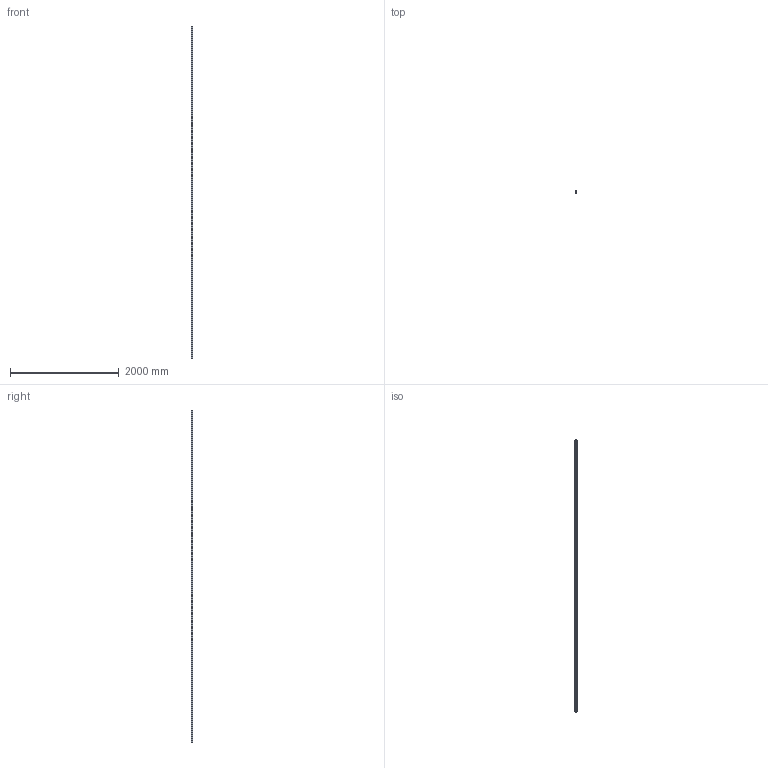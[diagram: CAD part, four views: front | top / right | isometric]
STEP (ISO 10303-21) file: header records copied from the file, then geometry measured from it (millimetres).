
FILE_DESCRIPTION (( 'STEP AP203' ), '1' );
FILE_NAME ('30 x 30 mm.STEP', '2012-05-30T15:16:24', ( '' ), ( '' ), 'SwSTEP 2.0', 'SolidWorks 2010', '' );
FILE_SCHEMA (( 'CONFIG_CONTROL_DESIGN' ));
Length unit declared in the file: millimetre
Products named in the file (1): 30 x 30 mm
Bounding box: 30 x 30 x 6100 mm (x, y, z)
Volume: 1825833.8 mm3; surface area: 2058062.1 mm2
Topology: 1 solids, 1 shells, 175 faces, 519 edges, 346 vertices
Faces by surface type: plane 106, cylinder 69
Entity records: 5968 total; most frequent: CARTESIAN_POINT 1041, ORIENTED_EDGE 1038, DIRECTION 1009, EDGE_CURVE 519, VECTOR 381, LINE 381, VERTEX_POINT 346, AXIS2_PLACEMENT_3D 314
